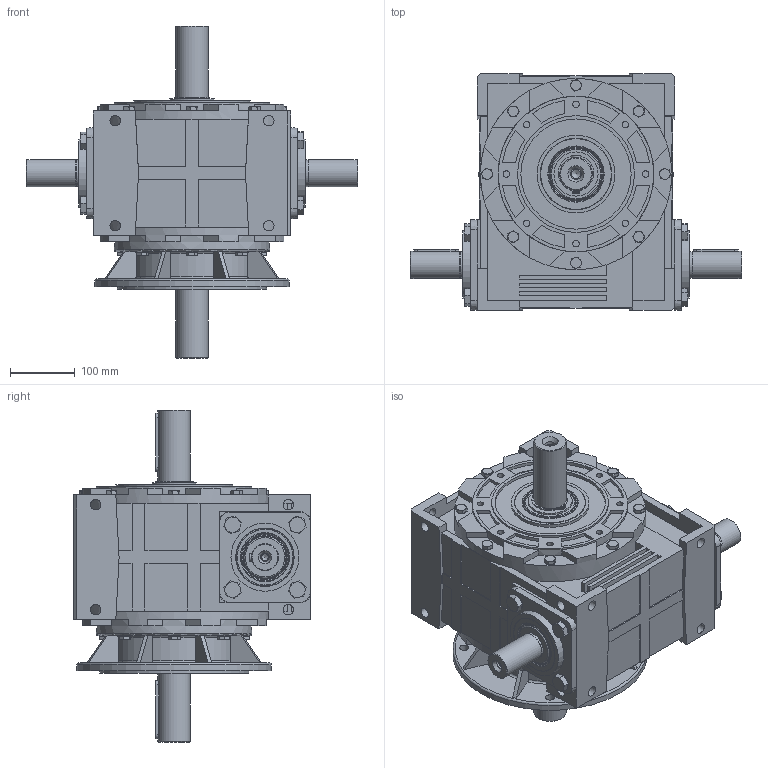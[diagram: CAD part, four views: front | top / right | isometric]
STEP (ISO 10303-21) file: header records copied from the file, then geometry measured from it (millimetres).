
FILE_DESCRIPTION (( 'STEP AP203' ), '1' );
FILE_NAME ('R-140_WBS2_K300_1_WD_1_3D.STEP', '2018-11-13T13:14:28', ( 'Biuro' ), ( 'Microsoft' ), 'SwSTEP 2.0', 'SolidWorks 2013', '' );
FILE_SCHEMA (( 'CONFIG_CONTROL_DESIGN' ));
Length unit declared in the file: millimetre
Products named in the file (1): R-140_WBS2_K300_1_WD_1_3D
Bounding box: 511 x 365 x 512 mm (x, y, z)
Volume: 22863331 mm3; surface area: 1084639.9 mm2
Topology: 1 solids, 38 shells, 1406 faces, 3385 edges, 2125 vertices
Faces by surface type: plane 804, cylinder 313, cone 208, torus 79, bspline 2
Full cylindrical faces by diameter (mm): 2.5 x2, 10 x24, 10.2 x2, 10.5 x8, 11 x8, 13 x2, 14 x6, 16 x36, 17 x10, 24 x8, 37 x1, 41.2 x1, 41.4 x1, 42 x2, 47 x1, 49.4 x1, 49.5 x1, 50 x5, 50.2 x1, 53 x1, 58 x1, 60 x1, 64.95 x2, 65 x3, 68 x1, 70.861 x2, 86 x2, 90 x4, 105 x2, 110 x2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
Entity records: 40649 total; most frequent: CARTESIAN_POINT 9437, DIRECTION 6546, ORIENTED_EDGE 5988, EDGE_CURVE 2994, AXIS2_PLACEMENT_3D 2485, VERTEX_POINT 1996, EDGE_LOOP 1834, FACE_OUTER_BOUND 1611
